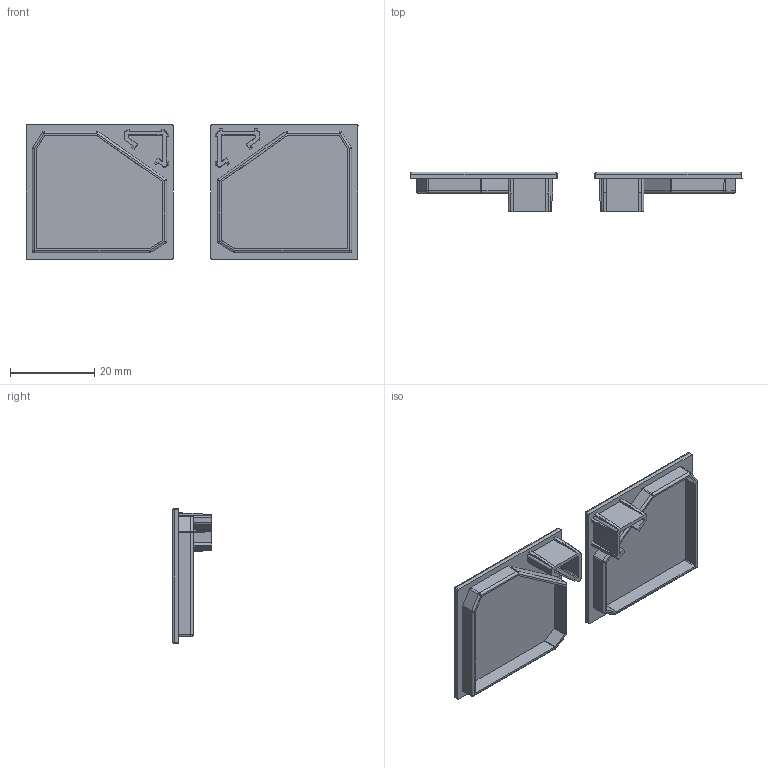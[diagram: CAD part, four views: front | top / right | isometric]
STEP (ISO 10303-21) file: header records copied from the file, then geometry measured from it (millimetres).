
FILE_DESCRIPTION(/* description */ (''),/* implementation_level */ '2;1');
FILE_NAME(/* name */ '1433667_stp.stp',/* time_stamp */ '2019-06-26T07:26:33+02:00',/* author */ (''),/* organization */ (''),/* preprocessor_version */ 'ST-DEVELOPER v16.7',/* originating_system */ 'SIEMENS PLM Software NX 12.0',/* authorisation */ '');
FILE_SCHEMA (('AUTOMOTIVE_DESIGN { 1 0 10303 214 3 1 1 1 }'));
Length unit declared in the file: millimetre
Products named in the file (1): p.sc1D70E58Bout5
Bounding box: 79 x 9.5 x 32 mm (x, y, z)
Volume: 4416.5 mm3; surface area: 7067.5 mm2
Topology: 2 solids, 2 shells, 218 faces, 580 edges, 350 vertices
Faces by surface type: plane 120, cylinder 76, sphere 14, bspline 8
Entity records: 8163 total; most frequent: CARTESIAN_POINT 2077, ORIENTED_EDGE 1116, DIRECTION 1082, EDGE_CURVE 558, LINE 404, VECTOR 404, VERTEX_POINT 350, AXIS2_PLACEMENT_3D 339
